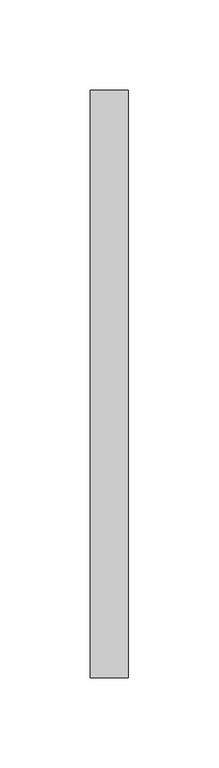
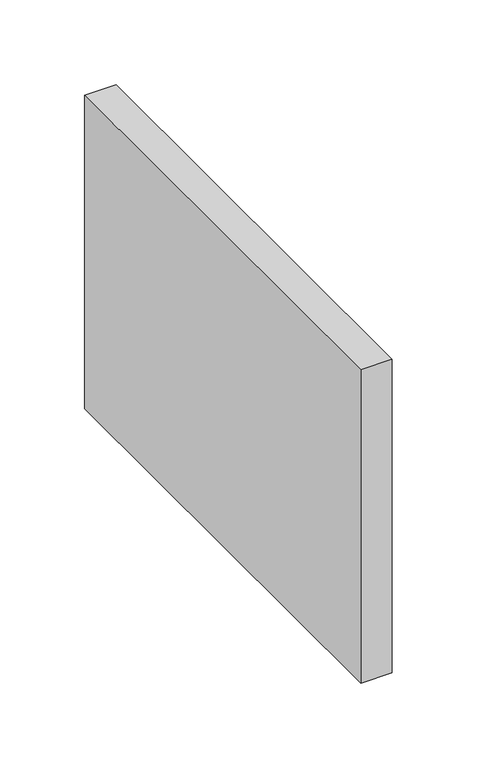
"""IFC4 building model written with IfcOpenShell, lengths in millimetres: duct fitting geometry, MEP_15.03 Injerto Conducte : Mínimo."""

import ifcopenshell
import ifcopenshell.guid

model = None  # the IFC model being written
_history = None  # IfcOwnerHistory: only IFC2X3 demands one
_inside = {}  # id of a spatial element -> (the spatial element, [elements in it])
_under = {}  # id of a project, library or spatial element -> (it, [spatial elements below it])
_declared = {}  # id of a project -> (the project, [libraries it declares])
_typed = {}  # id of a type object -> (the type object, [elements of that type])
_made_of = {}  # id of a material, layer set ... -> (it, [elements and type objects made of it])


def new_model(schema):
    """Start an empty IFC model of exactly this schema.

    Asked for "IFC4X3", IfcOpenShell would pick the latest addendum, in which some entities
    have other attributes; the version numbers below select the first issue.
    IFC2X3 requires an IfcOwnerHistory on every rooted entity: one is made here for all.
    """
    global model, _history
    if schema == "IFC4X3":
        model = ifcopenshell.file(schema_version=(4, 3, 0, 0))
    else:
        model = ifcopenshell.file(schema=schema)
    _inside.clear()
    _under.clear()
    _declared.clear()
    _typed.clear()
    _made_of.clear()
    _history = None
    if model.schema == "IFC2X3":
        org = make("IfcOrganization", Name="unknown")
        user = make(
            "IfcPersonAndOrganization",
            ThePerson=make("IfcPerson", FamilyName="unknown"),
            TheOrganization=org,
        )
        app = make(
            "IfcApplication",
            ApplicationDeveloper=org,
            Version="unknown",
            ApplicationFullName="unknown",
            ApplicationIdentifier="unknown",
        )
        _history = make(
            "IfcOwnerHistory",
            OwningUser=user,
            OwningApplication=app,
            ChangeAction="ADDED",
            CreationDate=0,
        )
    return model


def make(cls, **values):
    """One entity of the class cls with the attributes given. An attribute that is None is left unset."""
    return model.create_entity(
        cls, **{name: value for name, value in values.items() if value is not None}
    )


def rooted(cls, **values):
    """An entity with a GlobalId (a new one), such as an element, a storey or a relation."""
    return make(cls, GlobalId=ifcopenshell.guid.new(), OwnerHistory=_history, **values)


def si_unit(unit_type, name, prefix=None):
    """IfcSIUnit, for example si_unit("LENGTHUNIT", "METRE", prefix="MILLI")."""
    return make("IfcSIUnit", UnitType=unit_type, Prefix=prefix, Name=name)


def assignment(units):
    """IfcUnitAssignment: the units of a project."""
    return None if units is None else make("IfcUnitAssignment", Units=units)


def point(xyz):
    """IfcCartesianPoint."""
    return None if xyz is None else make("IfcCartesianPoint", Coordinates=xyz)


def direction(xyz):
    """IfcDirection."""
    return None if xyz is None else make("IfcDirection", DirectionRatios=xyz)


def frame(location, z_axis=None, x_axis=None):
    """IfcAxis2Placement3D, a coordinate frame: its origin and axes. An axis left out is left unset."""
    return make(
        "IfcAxis2Placement3D",
        Location=point(location),
        Axis=direction(z_axis),
        RefDirection=direction(x_axis),
    )


def origin():
    """The frame at (0, 0, 0) with its axes left unset."""
    return frame((0.0, 0.0, 0.0))


def place(relative_to, where):
    """IfcLocalPlacement: puts the frame where relative to a parent placement (None: the world)."""
    return make(
        "IfcLocalPlacement", PlacementRelTo=relative_to, RelativePlacement=where
    )


def context(
    kind, dimensions, precision=None, world=None, true_north=None, identifier=None
):
    """IfcGeometricRepresentationContext, for example the 3D "Model" context."""
    return make(
        "IfcGeometricRepresentationContext",
        ContextIdentifier=identifier,
        ContextType=kind,
        CoordinateSpaceDimension=dimensions,
        Precision=precision,
        WorldCoordinateSystem=world,
        TrueNorth=true_north,
    )


def project(units=None, contexts=None):
    """IfcProject with its units and contexts."""
    return rooted(
        "IfcProject",
        Name="project",
        RepresentationContexts=contexts,
        UnitsInContext=assignment(units),
    )


def spatial(cls, under=None, at=None, **own):
    """A site, building, storey or space (cls), placed at a placement, below another one or the project."""
    s = rooted(cls, ObjectPlacement=at, **own)
    if under is not None:
        _under.setdefault(under.id(), (under, []))[1].append(s)
    return s


def polyline(points):
    """IfcPolyline through the points."""
    return make("IfcPolyline", Points=[point(p) for p in points])


def outline(outer, holes=None, kind="AREA"):
    """IfcArbitraryClosedProfileDef: a profile drawn as a closed curve; with holes, ...WithVoids."""
    if holes is None:
        return make("IfcArbitraryClosedProfileDef", ProfileType=kind, OuterCurve=outer)
    return make(
        "IfcArbitraryProfileDefWithVoids",
        ProfileType=kind,
        OuterCurve=outer,
        InnerCurves=holes,
    )


def extrude(swept, where, along, depth):
    """IfcExtrudedAreaSolid: the profile swept, set in the frame where, extruded along a direction by depth."""
    return make(
        "IfcExtrudedAreaSolid",
        SweptArea=swept,
        Position=where,
        ExtrudedDirection=direction(along),
        Depth=depth,
    )


def shape(context_of_items, identifier, shape_type, items):
    """IfcShapeRepresentation: the items that make up one representation, for example the "Body"."""
    return make(
        "IfcShapeRepresentation",
        ContextOfItems=context_of_items,
        RepresentationIdentifier=identifier,
        RepresentationType=shape_type,
        Items=items,
    )


def source(mapping_origin, context_of_items, identifier, shape_type, items):
    """IfcRepresentationMap: a shape defined once, which mapped items show again and again."""
    return make(
        "IfcRepresentationMap",
        MappingOrigin=mapping_origin,
        MappedRepresentation=shape(context_of_items, identifier, shape_type, items),
    )


def transform(
    local_origin,
    x_axis=None,
    y_axis=None,
    z_axis=None,
    scale=None,
    scale2=None,
    scale3=None,
    uniform=True,
):
    """IfcCartesianTransformationOperator3D, or its non-uniform kind. x_axis, y_axis, z_axis: its Axis1, 2, 3."""
    if uniform:
        return make(
            "IfcCartesianTransformationOperator3D",
            Axis1=direction(x_axis),
            Axis2=direction(y_axis),
            LocalOrigin=point(local_origin),
            Scale=scale,
            Axis3=direction(z_axis),
        )
    return make(
        "IfcCartesianTransformationOperator3DnonUniform",
        Axis1=direction(x_axis),
        Axis2=direction(y_axis),
        LocalOrigin=point(local_origin),
        Scale=scale,
        Axis3=direction(z_axis),
        Scale2=scale2,
        Scale3=scale3,
    )


def mapped(mapping_source, mapping_target):
    """IfcMappedItem: shows the shape of a source again, moved by a transform."""
    return make(
        "IfcMappedItem", MappingSource=mapping_source, MappingTarget=mapping_target
    )


def made_of(thing, what):
    """Note that an element or type object is made of a material, layer set ...; save() writes the relation."""
    if what is not None:
        _made_of.setdefault(what.id(), (what, []))[1].append(thing)
    return thing


def element(
    cls,
    number,
    at=None,
    inside=None,
    cuts=None,
    type_object=None,
    material=None,
    context=None,
    identifier="Body",
    shape_type=None,
    held_by="IfcProductDefinitionShape",
    body=None,
    shapes=None,
    **own,
):
    """One element of the class cls, such as IfcWall. Its Tag is "e" and its number.

    at: its placement. inside: the storey or other place that contains it. cuts: it is an
    opening in that element (IfcRelVoidsElement). A single representation is given by context,
    identifier, shape_type and body (its items); several are given by shapes. held_by: the class
    of the entity that holds the representations. save() writes the other relations.
    """
    e = rooted(cls, Tag="e%d" % number, ObjectPlacement=at, **own)
    if body is not None:
        shapes = [shape(context, identifier, shape_type, body)]
    if shapes is not None:
        e.Representation = make(held_by, Representations=shapes)
    if inside is not None:
        _inside.setdefault(inside.id(), (inside, []))[1].append(e)
    if cuts is not None:
        rooted(
            "IfcRelVoidsElement", RelatingBuildingElement=cuts, RelatedOpeningElement=e
        )
    if type_object is not None:
        _typed.setdefault(type_object.id(), (type_object, []))[1].append(e)
    return made_of(e, material)


def aggregate(whole, parts):
    """IfcRelAggregates: a whole, such as a stair, and the parts it consists of."""
    return rooted("IfcRelAggregates", RelatingObject=whole, RelatedObjects=parts)


def save(model, path):
    """Write the relations noted so far, then the file.

    IfcRelAggregates (storeys below a building ...), IfcRelContainedInSpatialStructure (elements
    in a storey), IfcRelDefinesByType, IfcRelAssociatesMaterial and IfcRelDeclares: one each for
    every whole, place, type object, material and project.
    """
    for whole, parts in _under.values():
        aggregate(whole, parts)
    for where, things in _inside.values():
        rooted(
            "IfcRelContainedInSpatialStructure",
            RelatedElements=things,
            RelatingStructure=where,
        )
    for kind, things in _typed.values():
        rooted("IfcRelDefinesByType", RelatedObjects=things, RelatingType=kind)
    for what, things in _made_of.values():
        rooted("IfcRelAssociatesMaterial", RelatedObjects=things, RelatingMaterial=what)
    for by, libraries in _declared.values():
        rooted("IfcRelDeclares", RelatingContext=by, RelatedDefinitions=libraries)
    model.write(path)


def duct_fitting_16b74893(model_context):
    return source(origin(), model_context, "Body", "SweptSolid", [
        extrude(outline(polyline([(-6.096, -162.5), (-6.096, 162.5), (15.0, 162.5), (15.0, -162.5), (-6.096, -162.5)])), frame((0.0, 0.0, -112.5), z_axis=(0.0, 0.0, 1.0), x_axis=(1.0, 0.0, 0.0)), (0.0, 0.0, 1.0), 225.0),
    ])


if __name__ == "__main__":
    model = new_model("IFC4")
    model_context = context("Model", 3, world=origin())
    ifc_project = project(units=[si_unit("LENGTHUNIT", "METRE", prefix="MILLI")], contexts=[model_context])
    site = spatial("IfcSite", under=ifc_project)
    building = spatial("IfcBuilding", under=site)
    placement = place(None, origin())
    duct_fitting_shape = duct_fitting_16b74893(model_context)
    element("IfcDuctFitting", 1, ObjectType="MEP_15.03 Injerto Conducte : Mínimo", at=placement, inside=building, context=model_context, shape_type="MappedRepresentation", body=[
        mapped(duct_fitting_shape, transform((0.0, 0.0, 0.0), x_axis=(1.0, 0.0, 0.0), y_axis=(0.0, 1.0, 0.0), z_axis=(0.0, 0.0, 1.0))),
    ])
    save(model, "model.ifc")
